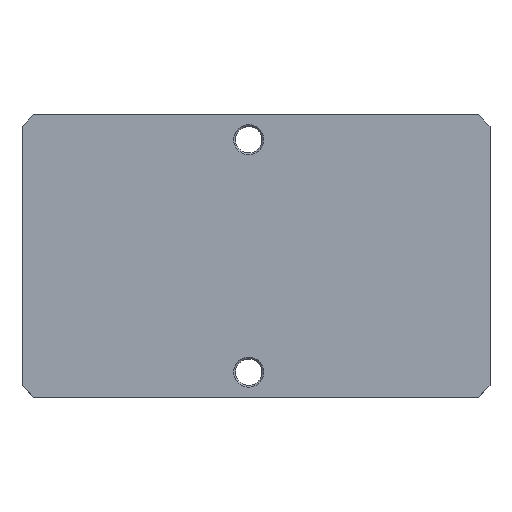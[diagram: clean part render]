
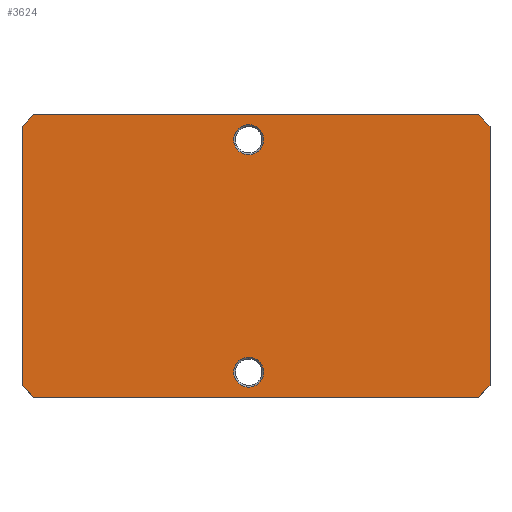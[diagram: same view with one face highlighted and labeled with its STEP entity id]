
A CAD part, top view. The second image highlights one B-rep face of the part: STEP entity #3624.
In plain terms, the highlighted planar face has unit normal (0, 0, 1).
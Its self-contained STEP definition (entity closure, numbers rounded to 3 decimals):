
#166=LINE('',#4963,#443);
#274=LINE('',#5862,#551);
#276=LINE('',#5866,#553);
#280=LINE('',#5874,#557);
#285=LINE('',#5884,#562);
#286=LINE('',#5887,#563);
#290=LINE('',#5893,#567);
#303=LINE('',#6017,#580);
#443=VECTOR('',#4075,10.);
#551=VECTOR('',#4289,10.);
#553=VECTOR('',#4293,10.);
#557=VECTOR('',#4299,10.);
#562=VECTOR('',#4306,10.);
#563=VECTOR('',#4309,10.);
#567=VECTOR('',#4315,10.);
#580=VECTOR('',#4458,10.);
#745=FACE_BOUND('',#1144,.T.);
#746=FACE_BOUND('',#1145,.T.);
#930=FACE_OUTER_BOUND('',#1143,.T.);
#1143=EDGE_LOOP('',(#2990,#2991,#2992,#2993,#2994,#2995,#2996,#2997));
#1144=EDGE_LOOP('',(#2998));
#1145=EDGE_LOOP('',(#2999));
#1210=CIRCLE('',#3716,2.55);
#1213=CIRCLE('',#3720,2.55);
#1363=VERTEX_POINT('',#4960);
#1364=VERTEX_POINT('',#4962);
#1371=VERTEX_POINT('',#4978);
#1374=VERTEX_POINT('',#4986);
#1494=VERTEX_POINT('',#5861);
#1495=VERTEX_POINT('',#5865);
#1498=VERTEX_POINT('',#5873);
#1499=VERTEX_POINT('',#5877);
#1502=VERTEX_POINT('',#5882);
#1503=VERTEX_POINT('',#5886);
#1716=EDGE_CURVE('',#1363,#1364,#166,.T.);
#1724=EDGE_CURVE('',#1371,#1371,#1210,.T.);
#1728=EDGE_CURVE('',#1374,#1374,#1213,.T.);
#1908=EDGE_CURVE('',#1364,#1494,#274,.T.);
#1910=EDGE_CURVE('',#1494,#1495,#276,.T.);
#1914=EDGE_CURVE('',#1495,#1498,#280,.T.);
#1919=EDGE_CURVE('',#1502,#1499,#285,.T.);
#1920=EDGE_CURVE('',#1499,#1503,#286,.T.);
#1924=EDGE_CURVE('',#1503,#1363,#290,.T.);
#1983=EDGE_CURVE('',#1498,#1502,#303,.T.);
#2990=ORIENTED_EDGE('',*,*,#1983,.F.);
#2991=ORIENTED_EDGE('',*,*,#1914,.F.);
#2992=ORIENTED_EDGE('',*,*,#1910,.F.);
#2993=ORIENTED_EDGE('',*,*,#1908,.F.);
#2994=ORIENTED_EDGE('',*,*,#1716,.F.);
#2995=ORIENTED_EDGE('',*,*,#1924,.F.);
#2996=ORIENTED_EDGE('',*,*,#1920,.F.);
#2997=ORIENTED_EDGE('',*,*,#1919,.F.);
#2998=ORIENTED_EDGE('',*,*,#1728,.F.);
#2999=ORIENTED_EDGE('',*,*,#1724,.F.);
#3259=PLANE('',#3935);
#3624=ADVANCED_FACE('',(#930,#745,#746),#3259,.T.);
#3716=AXIS2_PLACEMENT_3D('',#4979,#4087,#4088);
#3720=AXIS2_PLACEMENT_3D('',#4987,#4096,#4097);
#3935=AXIS2_PLACEMENT_3D('',#6336,#4772,#4773);
#4075=DIRECTION('',(0.,-1.,0.));
#4087=DIRECTION('center_axis',(0.,0.,
1.));
#4088=DIRECTION('ref_axis',(1.,0.,0.));
#4096=DIRECTION('center_axis',(0.,0.,
1.));
#4097=DIRECTION('ref_axis',(1.,0.,0.));
#4289=DIRECTION('',(-0.707,-0.707,0.));
#4293=DIRECTION('',(-1.,0.,0.));
#4299=DIRECTION('',(-0.707,0.707,0.));
#4306=DIRECTION('',(0.707,0.707,0.));
#4309=DIRECTION('',(1.,0.,0.));
#4315=DIRECTION('',(0.707,-0.707,0.));
#4458=DIRECTION('',(0.,1.,0.));
#4772=DIRECTION('center_axis',(0.,0.,
1.));
#4773=DIRECTION('ref_axis',(-1.,0.,0.));
#4960=CARTESIAN_POINT('',(57.786,2.968,15.311));
#4962=CARTESIAN_POINT('',(57.786,-41.032,15.311));
#4963=CARTESIAN_POINT('',(57.786,4.968,15.311));
#4978=CARTESIAN_POINT('',(14.236,-38.782,15.311));
#4979=CARTESIAN_POINT('Origin',(16.786,-38.782,15.311));
#4986=CARTESIAN_POINT('',(14.236,0.718,15.311));
#4987=CARTESIAN_POINT('Origin',(16.786,0.718,15.311));
#5861=CARTESIAN_POINT('',(55.786,-43.032,15.311));
#5862=CARTESIAN_POINT('',(52.849,-45.97,15.311));
#5865=CARTESIAN_POINT('',(-19.714,-43.032,15.311));
#5866=CARTESIAN_POINT('',(57.786,-43.032,15.311));
#5873=CARTESIAN_POINT('',(-21.714,-41.032,15.311));
#5874=CARTESIAN_POINT('',(-16.776,-45.97,15.311));
#5877=CARTESIAN_POINT('',(-19.714,4.968,15.311));
#5882=CARTESIAN_POINT('',(-21.714,2.968,15.311));
#5884=CARTESIAN_POINT('',(-16.776,7.905,15.311));
#5886=CARTESIAN_POINT('',(55.786,4.968,15.311));
#5887=CARTESIAN_POINT('',(-21.714,4.968,15.311));
#5893=CARTESIAN_POINT('',(52.849,7.905,15.311));
#6017=CARTESIAN_POINT('',(-21.714,-43.032,15.311));
#6336=CARTESIAN_POINT('Origin',(18.036,-19.032,15.311));
